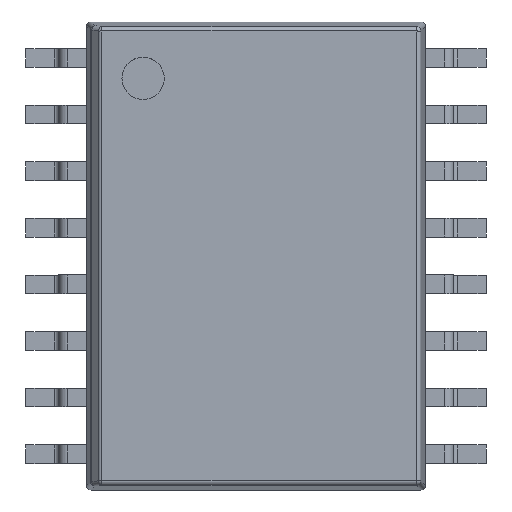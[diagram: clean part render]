
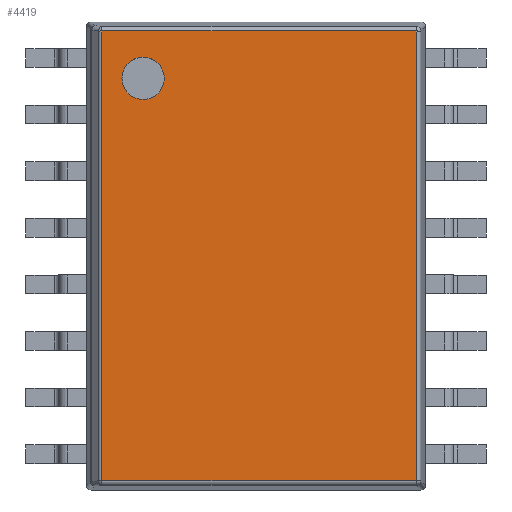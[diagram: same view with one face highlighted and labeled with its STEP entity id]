
A CAD part, top view. The second image highlights one B-rep face of the part: STEP entity #4419.
In plain terms, the highlighted planar face has unit normal (0, 0, 1).
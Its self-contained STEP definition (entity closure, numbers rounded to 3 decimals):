
#3460 = CYLINDRICAL_SURFACE('',#3461,0.1);
#3461 = AXIS2_PLACEMENT_3D('',#3462,#3463,#3464);
#3462 = CARTESIAN_POINT('',(0.3,0.204,2.265));
#3463 = DIRECTION('',(1.,0.,0.));
#3464 = DIRECTION('',(0.,-0.995,0.105));
#3609 = CYLINDRICAL_SURFACE('',#3610,0.1);
#3610 = AXIS2_PLACEMENT_3D('',#3611,#3612,#3613);
#3611 = CARTESIAN_POINT('',(0.3,10.296,2.265));
#3612 = DIRECTION('',(1.,0.,0.));
#3613 = DIRECTION('',(0.,0.995,0.105));
#3685 = CYLINDRICAL_SURFACE('',#3686,0.1);
#3686 = AXIS2_PLACEMENT_3D('',#3687,#3688,#3689);
#3687 = CARTESIAN_POINT('',(7.396,0.114,2.265));
#3688 = DIRECTION('',(0.,1.,0.));
#3689 = DIRECTION('',(0.995,0.,0.105));
#3989 = VERTEX_POINT('',#3990);
#3990 = CARTESIAN_POINT('',(0.341,0.204,2.365));
#4027 = EDGE_CURVE('',#3989,#4028,#4030,.T.);
#4028 = VERTEX_POINT('',#4029);
#4029 = CARTESIAN_POINT('',(7.396,0.204,2.365));
#4030 = SURFACE_CURVE('',#4031,(#4035,#4042),.PCURVE_S1.);
#4031 = LINE('',#4032,#4033);
#4032 = CARTESIAN_POINT('',(0.3,0.204,2.365));
#4033 = VECTOR('',#4034,1.);
#4034 = DIRECTION('',(1.,0.,0.));
#4035 = PCURVE('',#3460,#4036);
#4036 = DEFINITIONAL_REPRESENTATION('',(#4037),#4041);
#4037 = LINE('',#4038,#4039);
#4038 = CARTESIAN_POINT('',(-1.466,0.));
#4039 = VECTOR('',#4040,1.);
#4040 = DIRECTION('',(0.,1.));
#4041 = ( GEOMETRIC_REPRESENTATION_CONTEXT(2) 
PARAMETRIC_REPRESENTATION_CONTEXT() REPRESENTATION_CONTEXT('2D SPACE',''
  ) );
#4042 = PCURVE('',#4043,#4048);
#4043 = PLANE('',#4044);
#4044 = AXIS2_PLACEMENT_3D('',#4045,#4046,#4047);
#4045 = CARTESIAN_POINT('',(0.,0.,2.365));
#4046 = DIRECTION('',(0.,0.,1.));
#4047 = DIRECTION('',(1.,0.,0.));
#4048 = DEFINITIONAL_REPRESENTATION('',(#4049),#4053);
#4049 = LINE('',#4050,#4051);
#4050 = CARTESIAN_POINT('',(0.3,0.204));
#4051 = VECTOR('',#4052,1.);
#4052 = DIRECTION('',(1.,0.));
#4053 = ( GEOMETRIC_REPRESENTATION_CONTEXT(2) 
PARAMETRIC_REPRESENTATION_CONTEXT() REPRESENTATION_CONTEXT('2D SPACE',''
  ) );
#4191 = VERTEX_POINT('',#4192);
#4192 = CARTESIAN_POINT('',(0.341,10.296,2.365));
#4229 = EDGE_CURVE('',#4191,#4230,#4232,.T.);
#4230 = VERTEX_POINT('',#4231);
#4231 = CARTESIAN_POINT('',(7.396,10.296,2.365));
#4232 = SURFACE_CURVE('',#4233,(#4237,#4244),.PCURVE_S1.);
#4233 = LINE('',#4234,#4235);
#4234 = CARTESIAN_POINT('',(0.3,10.296,2.365));
#4235 = VECTOR('',#4236,1.);
#4236 = DIRECTION('',(1.,0.,0.));
#4237 = PCURVE('',#3609,#4238);
#4238 = DEFINITIONAL_REPRESENTATION('',(#4239),#4243);
#4239 = LINE('',#4240,#4241);
#4240 = CARTESIAN_POINT('',(1.466,0.));
#4241 = VECTOR('',#4242,1.);
#4242 = DIRECTION('',(0.,1.));
#4243 = ( GEOMETRIC_REPRESENTATION_CONTEXT(2) 
PARAMETRIC_REPRESENTATION_CONTEXT() REPRESENTATION_CONTEXT('2D SPACE',''
  ) );
#4244 = PCURVE('',#4043,#4245);
#4245 = DEFINITIONAL_REPRESENTATION('',(#4246),#4250);
#4246 = LINE('',#4247,#4248);
#4247 = CARTESIAN_POINT('',(0.3,10.296));
#4248 = VECTOR('',#4249,1.);
#4249 = DIRECTION('',(1.,0.));
#4250 = ( GEOMETRIC_REPRESENTATION_CONTEXT(2) 
PARAMETRIC_REPRESENTATION_CONTEXT() REPRESENTATION_CONTEXT('2D SPACE',''
  ) );
#4304 = EDGE_CURVE('',#4028,#4230,#4305,.T.);
#4305 = SURFACE_CURVE('',#4306,(#4310,#4317),.PCURVE_S1.);
#4306 = LINE('',#4307,#4308);
#4307 = CARTESIAN_POINT('',(7.396,0.114,2.365));
#4308 = VECTOR('',#4309,1.);
#4309 = DIRECTION('',(0.,1.,0.));
#4310 = PCURVE('',#3685,#4311);
#4311 = DEFINITIONAL_REPRESENTATION('',(#4312),#4316);
#4312 = LINE('',#4313,#4314);
#4313 = CARTESIAN_POINT('',(-1.466,0.));
#4314 = VECTOR('',#4315,1.);
#4315 = DIRECTION('',(0.,1.));
#4316 = ( GEOMETRIC_REPRESENTATION_CONTEXT(2) 
PARAMETRIC_REPRESENTATION_CONTEXT() REPRESENTATION_CONTEXT('2D SPACE',''
  ) );
#4317 = PCURVE('',#4043,#4318);
#4318 = DEFINITIONAL_REPRESENTATION('',(#4319),#4323);
#4319 = LINE('',#4320,#4321);
#4320 = CARTESIAN_POINT('',(7.396,0.114));
#4321 = VECTOR('',#4322,1.);
#4322 = DIRECTION('',(0.,1.));
#4323 = ( GEOMETRIC_REPRESENTATION_CONTEXT(2) 
PARAMETRIC_REPRESENTATION_CONTEXT() REPRESENTATION_CONTEXT('2D SPACE',''
  ) );
#4376 = CYLINDRICAL_SURFACE('',#4377,0.1);
#4377 = AXIS2_PLACEMENT_3D('',#4378,#4379,#4380);
#4378 = CARTESIAN_POINT('',(0.341,0.114,2.265));
#4379 = DIRECTION('',(0.,1.,0.));
#4380 = DIRECTION('',(-0.707,0.,0.707));
#4419 = ADVANCED_FACE('',(#4420,#4446),#4043,.T.);
#4420 = FACE_BOUND('',#4421,.T.);
#4421 = EDGE_LOOP('',(#4422,#4423,#4444,#4445));
#4422 = ORIENTED_EDGE('',*,*,#4229,.F.);
#4423 = ORIENTED_EDGE('',*,*,#4424,.F.);
#4424 = EDGE_CURVE('',#3989,#4191,#4425,.T.);
#4425 = SURFACE_CURVE('',#4426,(#4430,#4437),.PCURVE_S1.);
#4426 = LINE('',#4427,#4428);
#4427 = CARTESIAN_POINT('',(0.341,0.114,2.365));
#4428 = VECTOR('',#4429,1.);
#4429 = DIRECTION('',(0.,1.,0.));
#4430 = PCURVE('',#4043,#4431);
#4431 = DEFINITIONAL_REPRESENTATION('',(#4432),#4436);
#4432 = LINE('',#4433,#4434);
#4433 = CARTESIAN_POINT('',(0.341,0.114));
#4434 = VECTOR('',#4435,1.);
#4435 = DIRECTION('',(0.,1.));
#4436 = ( GEOMETRIC_REPRESENTATION_CONTEXT(2) 
PARAMETRIC_REPRESENTATION_CONTEXT() REPRESENTATION_CONTEXT('2D SPACE',''
  ) );
#4437 = PCURVE('',#4376,#4438);
#4438 = DEFINITIONAL_REPRESENTATION('',(#4439),#4443);
#4439 = LINE('',#4440,#4441);
#4440 = CARTESIAN_POINT('',(0.785,0.));
#4441 = VECTOR('',#4442,1.);
#4442 = DIRECTION('',(0.,1.));
#4443 = ( GEOMETRIC_REPRESENTATION_CONTEXT(2) 
PARAMETRIC_REPRESENTATION_CONTEXT() REPRESENTATION_CONTEXT('2D SPACE',''
  ) );
#4444 = ORIENTED_EDGE('',*,*,#4027,.T.);
#4445 = ORIENTED_EDGE('',*,*,#4304,.T.);
#4446 = FACE_BOUND('',#4447,.T.);
#4447 = EDGE_LOOP('',(#4448));
#4448 = ORIENTED_EDGE('',*,*,#4449,.F.);
#4449 = EDGE_CURVE('',#4450,#4450,#4452,.T.);
#4450 = VERTEX_POINT('',#4451);
#4451 = CARTESIAN_POINT('',(1.742,9.233,2.365));
#4452 = SURFACE_CURVE('',#4453,(#4458,#4465),.PCURVE_S1.);
#4453 = CIRCLE('',#4454,0.475);
#4454 = AXIS2_PLACEMENT_3D('',#4455,#4456,#4457);
#4455 = CARTESIAN_POINT('',(1.267,9.233,2.365));
#4456 = DIRECTION('',(0.,0.,1.));
#4457 = DIRECTION('',(1.,0.,0.));
#4458 = PCURVE('',#4043,#4459);
#4459 = DEFINITIONAL_REPRESENTATION('',(#4460),#4464);
#4460 = CIRCLE('',#4461,0.475);
#4461 = AXIS2_PLACEMENT_2D('',#4462,#4463);
#4462 = CARTESIAN_POINT('',(1.267,9.233));
#4463 = DIRECTION('',(1.,0.));
#4464 = ( GEOMETRIC_REPRESENTATION_CONTEXT(2) 
PARAMETRIC_REPRESENTATION_CONTEXT() REPRESENTATION_CONTEXT('2D SPACE',''
  ) );
#4465 = PCURVE('',#4466,#4471);
#4466 = CYLINDRICAL_SURFACE('',#4467,0.475);
#4467 = AXIS2_PLACEMENT_3D('',#4468,#4469,#4470);
#4468 = CARTESIAN_POINT('',(1.267,9.233,2.265));
#4469 = DIRECTION('',(0.,0.,1.));
#4470 = DIRECTION('',(1.,0.,0.));
#4471 = DEFINITIONAL_REPRESENTATION('',(#4472),#4476);
#4472 = LINE('',#4473,#4474);
#4473 = CARTESIAN_POINT('',(0.,0.1));
#4474 = VECTOR('',#4475,1.);
#4475 = DIRECTION('',(1.,0.));
#4476 = ( GEOMETRIC_REPRESENTATION_CONTEXT(2) 
PARAMETRIC_REPRESENTATION_CONTEXT() REPRESENTATION_CONTEXT('2D SPACE',''
  ) );
